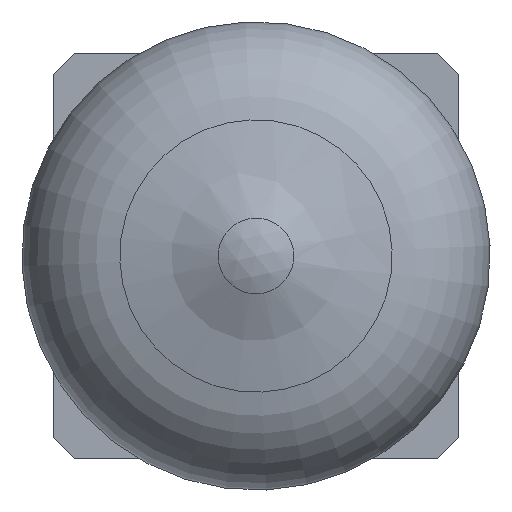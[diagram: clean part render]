
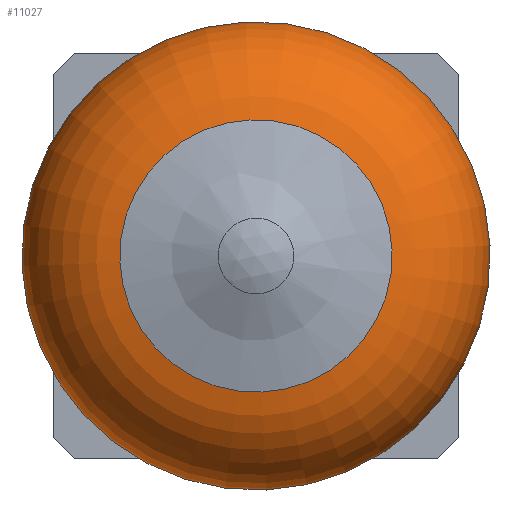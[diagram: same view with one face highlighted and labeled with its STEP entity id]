
A CAD part, left-side view. The second image highlights one B-rep face of the part: STEP entity #11027.
In plain terms, the highlighted toroidal (fillet/blend) face has major radius 2.05 mm and minor radius 2 mm.
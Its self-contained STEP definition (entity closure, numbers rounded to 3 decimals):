
#10996=CARTESIAN_POINT('',(-9.4,-4.05,0.));
#10997=VERTEX_POINT('',#10996);
#10998=CARTESIAN_POINT('',(-9.4,0.,0.));
#10999=DIRECTION('',(-1.0,0.0,0.0));
#11000=DIRECTION('',(0.0,-1.0,0.0));
#11001=AXIS2_PLACEMENT_3D('',#10998,#10999,#11000);
#11002=CIRCLE('',#11001,4.05);
#11003=EDGE_CURVE('',#10997,#10997,#11002,.T.);
#11008=CARTESIAN_POINT('',(-9.4,0.,0.));
#11009=DIRECTION('',(-1.0,0.0,0.0));
#11010=DIRECTION('',(0.0,0.0,1.0));
#11011=AXIS2_PLACEMENT_3D('',#11008,#11009,#11010);
#11012=TOROIDAL_SURFACE('',#11011,2.05,2.);
#11013=ORIENTED_EDGE('',*,*,#11003,.T.);
#11014=EDGE_LOOP('',(#11013));
#11015=FACE_OUTER_BOUND('',#11014,.T.);
#11016=CARTESIAN_POINT('',(-11.377,-2.355,0.));
#11017=VERTEX_POINT('',#11016);
#11018=CARTESIAN_POINT('',(-11.377,0.,0.));
#11019=DIRECTION('',(-1.0,0.0,0.0));
#11020=DIRECTION('',(0.0,-1.0,0.0));
#11021=AXIS2_PLACEMENT_3D('',#11018,#11019,#11020);
#11022=CIRCLE('',#11021,2.355);
#11023=EDGE_CURVE('',#11017,#11017,#11022,.T.);
#11024=ORIENTED_EDGE('',*,*,#11023,.F.);
#11025=EDGE_LOOP('',(#11024));
#11026=FACE_BOUND('',#11025,.T.);
#11027=ADVANCED_FACE('',(#11015,#11026),#11012,.T.);
